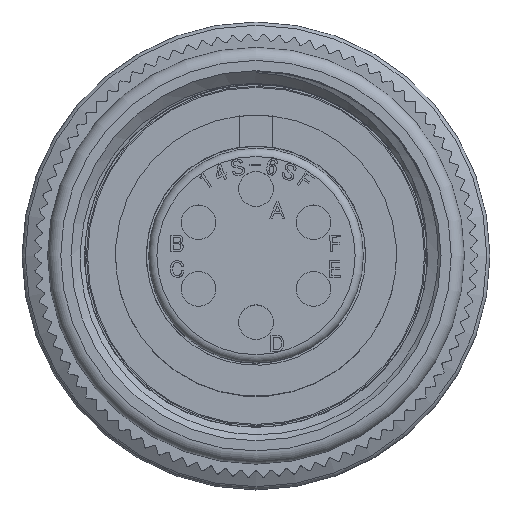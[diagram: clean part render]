
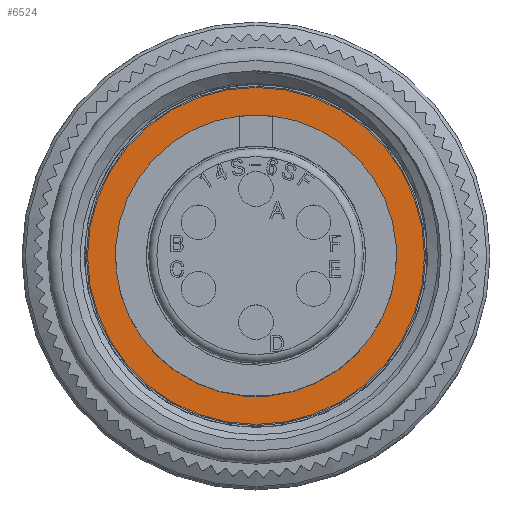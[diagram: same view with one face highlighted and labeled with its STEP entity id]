
A CAD part, top view. The second image highlights one B-rep face of the part: STEP entity #6524.
In plain terms, the highlighted planar face has unit normal (0, 0, 1).
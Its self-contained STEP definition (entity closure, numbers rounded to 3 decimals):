
#1615 = PLANE ( 'NONE',  #2039 ) ;
#2039 = AXIS2_PLACEMENT_3D ( 'NONE', #42650, #45913, #23772 ) ;
#6524 = ADVANCED_FACE ( 'NONE', ( #11871, #24689 ), #1615, .F. ) ;
#7265 = VERTEX_POINT ( 'NONE', #24697 ) ;
#8387 = EDGE_CURVE ( 'NONE', #7265, #27569, #18735, .T. ) ;
#11871 = FACE_BOUND ( 'NONE', #26238, .T. ) ;
#13389 = DIRECTION ( 'NONE',  ( 0., 0., 1. ) ) ;
#15887 = EDGE_LOOP ( 'NONE', ( #35602 ) ) ;
#16138 = VERTEX_POINT ( 'NONE', #39854 ) ;
#18057 = ORIENTED_EDGE ( 'NONE', *, *, #37519, .F. ) ;
#18565 = AXIS2_PLACEMENT_3D ( 'NONE', #48332, #30897, #34460 ) ;
#18735 = CIRCLE ( 'NONE', #38536, 8.57 ) ;
#23772 = DIRECTION ( 'NONE',  ( -1., 0., 0. ) ) ;
#24689 = FACE_OUTER_BOUND ( 'NONE', #15887, .T. ) ;
#24697 = CARTESIAN_POINT ( 'NONE',  ( 1.015, 8.51, -11.89 ) ) ;
#26238 = EDGE_LOOP ( 'NONE', ( #39111, #18057 ) ) ;
#27569 = VERTEX_POINT ( 'NONE', #44286 ) ;
#28190 = CARTESIAN_POINT ( 'NONE',  ( 0., 0., -11.89 ) ) ;
#28412 = CARTESIAN_POINT ( 'NONE',  ( 0., 0., -11.89 ) ) ;
#30897 = DIRECTION ( 'NONE',  ( 0., 0., 1. ) ) ;
#32155 = DIRECTION ( 'NONE',  ( 0., 0., 1. ) ) ;
#32468 = DIRECTION ( 'NONE',  ( 1., 0., 0. ) ) ;
#34460 = DIRECTION ( 'NONE',  ( 1., 0., 0. ) ) ;
#35602 = ORIENTED_EDGE ( 'NONE', *, *, #42485, .T. ) ;
#36603 = CIRCLE ( 'NONE', #38000, 10.27 ) ;
#37519 = EDGE_CURVE ( 'NONE', #27569, #7265, #38150, .T. ) ;
#38000 = AXIS2_PLACEMENT_3D ( 'NONE', #28412, #32155, #32468 ) ;
#38150 = CIRCLE ( 'NONE', #18565, 8.57 ) ;
#38536 = AXIS2_PLACEMENT_3D ( 'NONE', #28190, #13389, #43327 ) ;
#39111 = ORIENTED_EDGE ( 'NONE', *, *, #8387, .F. ) ;
#39854 = CARTESIAN_POINT ( 'NONE',  ( 10.27, 0., -11.89 ) ) ;
#42485 = EDGE_CURVE ( 'NONE', #16138, #16138, #36603, .T. ) ;
#42650 = CARTESIAN_POINT ( 'NONE',  ( 0., 10.27, -11.89 ) ) ;
#43327 = DIRECTION ( 'NONE',  ( 1., 0., 0. ) ) ;
#44286 = CARTESIAN_POINT ( 'NONE',  ( -1.015, 8.51, -11.89 ) ) ;
#45913 = DIRECTION ( 'NONE',  ( 0., 0., -1. ) ) ;
#48332 = CARTESIAN_POINT ( 'NONE',  ( 0., 0., -11.89 ) ) ;
